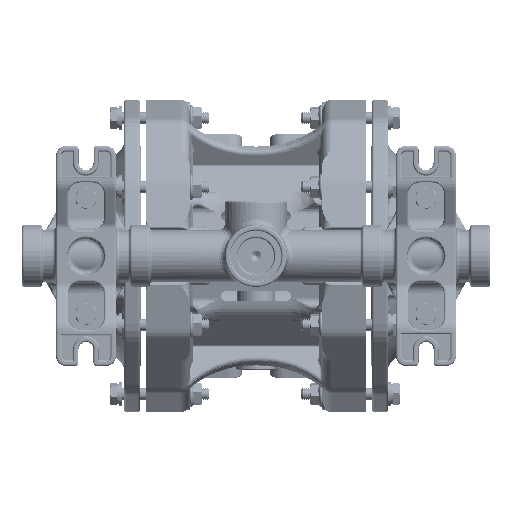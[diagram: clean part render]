
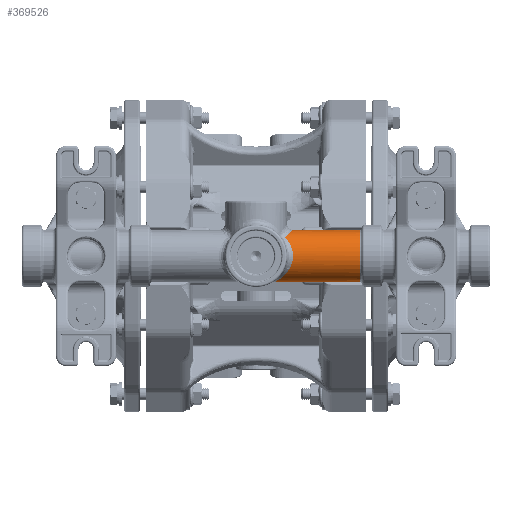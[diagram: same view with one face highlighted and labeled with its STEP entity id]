
A CAD part, front view. The second image highlights one B-rep face of the part: STEP entity #369526.
In plain terms, the highlighted cylindrical face has radius 13 mm (diameter 26 mm), a partial arc.
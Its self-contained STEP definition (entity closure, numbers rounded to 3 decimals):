
#13579 = CARTESIAN_POINT ( 'NONE',  ( 54.034, -107.089, 8.775 ) ) ;
#14808 = CARTESIAN_POINT ( 'NONE',  ( 57.448, -110.431, 1.178 ) ) ;
#16034 = CARTESIAN_POINT ( 'NONE',  ( 55.615, -108.675, -6.636 ) ) ;
#17273 = CARTESIAN_POINT ( 'NONE',  ( 48.875, -100.223, -12.711 ) ) ;
#25393 = CARTESIAN_POINT ( 'NONE',  ( 55.988, -103.49, 11.559 ) ) ;
#26182 = LINE ( 'NONE', #355621, #93331 ) ;
#26525 = EDGE_CURVE ( 'NONE', #223692, #47157, #278203, .T. ) ;
#40307 = CARTESIAN_POINT ( 'NONE',  ( 91., -97.48, 0. ) ) ;
#42343 = CARTESIAN_POINT ( 'NONE',  ( 53.637, -106.672, 9.192 ) ) ;
#43587 = CARTESIAN_POINT ( 'NONE',  ( 57.518, -110.497, -0.223 ) ) ;
#44833 = CARTESIAN_POINT ( 'NONE',  ( 54.569, -107.635, -8.138 ) ) ;
#45461 = CARTESIAN_POINT ( 'NONE',  ( 57.5, -97.48, 13. ) ) ;
#46075 = CARTESIAN_POINT ( 'NONE',  ( 48.525, -99.23, -12.886 ) ) ;
#47157 = VERTEX_POINT ( 'NONE', #336234 ) ;
#52495 = CYLINDRICAL_SURFACE ( 'NONE', #84265, 13. ) ;
#52919 = CARTESIAN_POINT ( 'NONE',  ( 57.5, -97.48, 13. ) ) ;
#54164 = CARTESIAN_POINT ( 'NONE',  ( 54.884, -105.196, 10.47 ) ) ;
#69096 = DIRECTION ( 'NONE',  ( 0., 0., -1. ) ) ;
#71136 = CARTESIAN_POINT ( 'NONE',  ( 55.493, -108.555, 6.837 ) ) ;
#72367 = CARTESIAN_POINT ( 'NONE',  ( 57.346, -110.335, -1.97 ) ) ;
#73616 = CARTESIAN_POINT ( 'NONE',  ( 53.406, -106.433, -9.444 ) ) ;
#74859 = CARTESIAN_POINT ( 'NONE',  ( 48.319, -98.196, -12.985 ) ) ;
#82983 = CARTESIAN_POINT ( 'NONE',  ( 54.15, -106.114, 9.726 ) ) ;
#84265 = AXIS2_PLACEMENT_3D ( 'NONE', #176775, #234172, #347974 ) ;
#93331 = VECTOR ( 'NONE', #326892, 1000. ) ;
#99913 = CARTESIAN_POINT ( 'NONE',  ( 56.111, -109.157, 5.723 ) ) ;
#101156 = CARTESIAN_POINT ( 'NONE',  ( 57.135, -110.136, -2.993 ) ) ;
#102386 = CARTESIAN_POINT ( 'NONE',  ( 52.199, -105.108, -10.542 ) ) ;
#103160 = EDGE_LOOP ( 'NONE', ( #281215, #330119, #284876, #119880, #106897 ) ) ;
#103637 = CARTESIAN_POINT ( 'NONE',  ( 48.287, -97.48, -13. ) ) ;
#106897 = ORIENTED_EDGE ( 'NONE', *, *, #313456, .F. ) ;
#110518 = CARTESIAN_POINT ( 'NONE',  ( 57.474, -98.397, 12.976 ) ) ;
#111518 = VERTEX_POINT ( 'NONE', #45461 ) ;
#111734 = CARTESIAN_POINT ( 'NONE',  ( 53.637, -106.672, 9.192 ) ) ;
#119880 = ORIENTED_EDGE ( 'NONE', *, *, #26525, .T. ) ;
#123334 = EDGE_CURVE ( 'NONE', #285188, #291672, #339561, .T. ) ;
#128598 = CARTESIAN_POINT ( 'NONE',  ( 56.525, -109.555, 4.827 ) ) ;
#129842 = CARTESIAN_POINT ( 'NONE',  ( 56.848, -109.864, -3.968 ) ) ;
#130589 = CARTESIAN_POINT ( 'NONE',  ( 91., -97.48, 13. ) ) ;
#131069 = CARTESIAN_POINT ( 'NONE',  ( 50.985, -103.65, -11.458 ) ) ;
#134899 = LINE ( 'NONE', #198598, #344985 ) ;
#139243 = CARTESIAN_POINT ( 'NONE',  ( 57.292, -99.77, 12.805 ) ) ;
#139279 = EDGE_CURVE ( 'NONE', #291672, #111518, #134899, .T. ) ;
#157342 = CARTESIAN_POINT ( 'NONE',  ( 57.085, -110.089, 3.241 ) ) ;
#158558 = CARTESIAN_POINT ( 'NONE',  ( 56.493, -109.525, -4.903 ) ) ;
#159764 = CARTESIAN_POINT ( 'NONE',  ( 49.828, -102.032, -12.192 ) ) ;
#167818 = CARTESIAN_POINT ( 'NONE',  ( 56.971, -101.075, 12.501 ) ) ;
#176775 = CARTESIAN_POINT ( 'NONE',  ( 158., -97.48, 0. ) ) ;
#184724 = CARTESIAN_POINT ( 'NONE',  ( 54.418, -107.482, 8.327 ) ) ;
#185940 = CARTESIAN_POINT ( 'NONE',  ( 57.36, -110.348, 1.879 ) ) ;
#187180 = CARTESIAN_POINT ( 'NONE',  ( 55.932, -108.984, -6.09 ) ) ;
#188430 = CARTESIAN_POINT ( 'NONE',  ( 49.165, -100.849, -12.56 ) ) ;
#196516 = CARTESIAN_POINT ( 'NONE',  ( 56.523, -102.317, 12.074 ) ) ;
#198598 = CARTESIAN_POINT ( 'NONE',  ( 158., -97.48, 13. ) ) ;
#214657 = CARTESIAN_POINT ( 'NONE',  ( 57.477, -110.458, 0.828 ) ) ;
#215886 = CARTESIAN_POINT ( 'NONE',  ( 54.934, -108.001, -7.66 ) ) ;
#217105 = CARTESIAN_POINT ( 'NONE',  ( 48.743, -99.896, -12.778 ) ) ;
#223692 = VERTEX_POINT ( 'NONE', #350766 ) ;
#223989 = CARTESIAN_POINT ( 'NONE',  ( 57.5, -97.938, 13. ) ) ;
#225228 = CARTESIAN_POINT ( 'NONE',  ( 55.572, -104.204, 11.155 ) ) ;
#227338 = DIRECTION ( 'NONE',  ( -1., 0., 0. ) ) ;
#234172 = DIRECTION ( 'NONE',  ( -1., 0., 0. ) ) ;
#240153 = DIRECTION ( 'NONE',  ( -1., 0., 0. ) ) ;
#242220 = CARTESIAN_POINT ( 'NONE',  ( 55.149, -108.216, 7.355 ) ) ;
#243459 = CARTESIAN_POINT ( 'NONE',  ( 57.485, -110.466, -0.922 ) ) ;
#244703 = CARTESIAN_POINT ( 'NONE',  ( 53.802, -106.848, -9.033 ) ) ;
#245925 = CARTESIAN_POINT ( 'NONE',  ( 48.439, -98.891, -12.928 ) ) ;
#254012 = CARTESIAN_POINT ( 'NONE',  ( 54.643, -105.513, 10.229 ) ) ;
#271018 = CARTESIAN_POINT ( 'NONE',  ( 55.962, -109.013, 6.008 ) ) ;
#272272 = CARTESIAN_POINT ( 'NONE',  ( 57.284, -110.276, -2.318 ) ) ;
#273502 = CARTESIAN_POINT ( 'NONE',  ( 52.605, -105.563, -10.198 ) ) ;
#274696 = CARTESIAN_POINT ( 'NONE',  ( 48.287, -97.838, -13. ) ) ;
#278203 = B_SPLINE_CURVE_WITH_KNOTS ( 'NONE', 3,
 ( #42343, #13579, #184724, #242220, #71136, #271018, #99913, #299712, #128598, #328503, #157342, #357217, #185940, #14808, #214657, #43587, #243459, #72367, #272272, #101156, #300933, #129842, #329743, #158558, #358435, #187180, #16034, #215886, #44833, #244703, #73616, #273502, #102386, #302179, #131069, #330949, #159764, #359669, #188430, #17273, #217105, #46075, #245925, #74859, #274696, #103637 ),
 .UNSPECIFIED., .F., .F.,
 ( 4, 2, 2, 2, 2, 2, 2, 2, 2, 2, 2, 2, 2, 2, 2, 2, 2, 2, 2, 2, 2, 2, 4 ),
 ( 0., 0.002, 0.004, 0.005, 0.006, 0.009, 0.01, 0.011, 0.013, 0.014, 0.015, 0.016, 0.017, 0.019, 0.021, 0.023, 0.026, 0.028, 0.03, 0.031, 0.032, 0.033, 0.034 ),
 .UNSPECIFIED. ) ;
#281215 = ORIENTED_EDGE ( 'NONE', *, *, #123334, .T. ) ;
#282785 = CARTESIAN_POINT ( 'NONE',  ( 53.896, -106.4, 9.465 ) ) ;
#284876 = ORIENTED_EDGE ( 'NONE', *, *, #299635, .T. ) ;
#285188 = VERTEX_POINT ( 'NONE', #332787 ) ;
#291672 = VERTEX_POINT ( 'NONE', #130589 ) ;
#299635 = EDGE_CURVE ( 'NONE', #111518, #223692, #319627, .T. ) ;
#299712 = CARTESIAN_POINT ( 'NONE',  ( 56.392, -109.428, 5.133 ) ) ;
#300933 = CARTESIAN_POINT ( 'NONE',  ( 57.047, -110.053, -3.323 ) ) ;
#302179 = CARTESIAN_POINT ( 'NONE',  ( 51.39, -104.152, -11.172 ) ) ;
#310388 = CARTESIAN_POINT ( 'NONE',  ( 57.37, -99.317, 12.878 ) ) ;
#313456 = EDGE_CURVE ( 'NONE', #285188, #47157, #26182, .T. ) ;
#319627 = B_SPLINE_CURVE_WITH_KNOTS ( 'NONE', 3,
 ( #52919, #223989, #110518, #310388, #139243, #339029, #167818, #367755, #196516, #25393, #225228, #54164, #254012, #82983, #282785, #111734 ),
 .UNSPECIFIED., .F., .F.,
 ( 4, 2, 2, 2, 2, 2, 2, 4 ),
 ( 0.023, 0.024, 0.025, 0.027, 0.028, 0.031, 0.032, 0.034 ),
 .UNSPECIFIED. ) ;
#326892 = DIRECTION ( 'NONE',  ( -1., 0., 0. ) ) ;
#328503 = CARTESIAN_POINT ( 'NONE',  ( 56.888, -109.902, 3.89 ) ) ;
#329743 = CARTESIAN_POINT ( 'NONE',  ( 56.737, -109.758, -4.284 ) ) ;
#330119 = ORIENTED_EDGE ( 'NONE', *, *, #139279, .T. ) ;
#330949 = CARTESIAN_POINT ( 'NONE',  ( 50.201, -102.586, -11.97 ) ) ;
#332787 = CARTESIAN_POINT ( 'NONE',  ( 91., -97.48, -13. ) ) ;
#333987 = AXIS2_PLACEMENT_3D ( 'NONE', #40307, #240153, #69096 ) ;
#336234 = CARTESIAN_POINT ( 'NONE',  ( 48.287, -97.48, -13. ) ) ;
#339029 = CARTESIAN_POINT ( 'NONE',  ( 57.093, -100.648, 12.616 ) ) ;
#339561 = CIRCLE ( 'NONE', #333987, 13. ) ;
#344985 = VECTOR ( 'NONE', #227338, 1000. ) ;
#347974 = DIRECTION ( 'NONE',  ( 0., 0., -1. ) ) ;
#350766 = CARTESIAN_POINT ( 'NONE',  ( 53.637, -106.672, 9.192 ) ) ;
#355621 = CARTESIAN_POINT ( 'NONE',  ( 158., -97.48, -13. ) ) ;
#356529 = FACE_OUTER_BOUND ( 'NONE', #103160, .T. ) ;
#357217 = CARTESIAN_POINT ( 'NONE',  ( 57.301, -110.293, 2.226 ) ) ;
#358435 = CARTESIAN_POINT ( 'NONE',  ( 56.359, -109.396, -5.207 ) ) ;
#359669 = CARTESIAN_POINT ( 'NONE',  ( 49.323, -101.152, -12.475 ) ) ;
#367755 = CARTESIAN_POINT ( 'NONE',  ( 56.687, -101.909, 12.23 ) ) ;
#369526 = ADVANCED_FACE ( 'NONE', ( #356529 ), #52495, .T. ) ;
